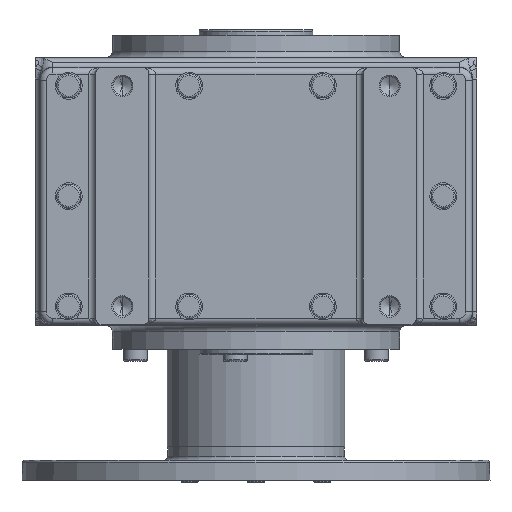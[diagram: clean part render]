
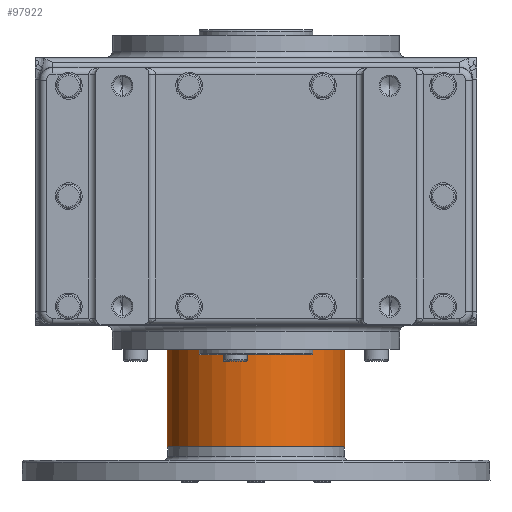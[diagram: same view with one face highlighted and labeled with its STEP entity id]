
A CAD part, front view. The second image highlights one B-rep face of the part: STEP entity #97922.
In plain terms, the highlighted cylindrical face has radius 66.5 mm (diameter 133 mm), a partial arc.
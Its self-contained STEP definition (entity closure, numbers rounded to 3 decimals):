
#65235 = DIRECTION ( 'NONE',  ( 1., 0., 0. ) ) ;
#65236 = DIRECTION ( 'NONE',  ( 0., 0., 1. ) ) ;
#65237 = CARTESIAN_POINT ( 'NONE',  ( 0., 247., -91. ) ) ;
#65238 = AXIS2_PLACEMENT_3D ( 'NONE', #65237, #65236, #65235 ) ;
#65239 = CIRCLE ( 'NONE', #65238, 66.5 ) ;
#65348 = DIRECTION ( 'NONE',  ( 1., 0., 0. ) ) ;
#65349 = DIRECTION ( 'NONE',  ( 0., 0., 1. ) ) ;
#65350 = CARTESIAN_POINT ( 'NONE',  ( 0., 247., -3. ) ) ;
#65351 = AXIS2_PLACEMENT_3D ( 'NONE', #65350, #65349, #65348 ) ;
#65352 = CYLINDRICAL_SURFACE ( 'NONE', #65351, 66.5 ) ;
#65354 = FACE_OUTER_BOUND ( 'NONE', #97923, .T. ) ;
#79535 = DIRECTION ( 'NONE',  ( 0., 0., 1. ) ) ;
#79536 = VECTOR ( 'NONE', #79535, 1000. ) ;
#80599 = CARTESIAN_POINT ( 'NONE',  ( -66.5, 247., -3. ) ) ;
#80600 = LINE ( 'NONE', #80599, #79536 ) ;
#80720 = DIRECTION ( 'NONE',  ( 0., 0., 1. ) ) ;
#80721 = VECTOR ( 'NONE', #80720, 1000. ) ;
#80722 = CARTESIAN_POINT ( 'NONE',  ( 66.5, 247., -3. ) ) ;
#80723 = LINE ( 'NONE', #80722, #80721 ) ;
#81234 = CARTESIAN_POINT ( 'NONE',  ( -66.5, 247., -91. ) ) ;
#81236 = CARTESIAN_POINT ( 'NONE',  ( 66.5, 247., -91. ) ) ;
#81379 = CARTESIAN_POINT ( 'NONE',  ( 66.5, 247., -18. ) ) ;
#81380 = CARTESIAN_POINT ( 'NONE',  ( -66.5, 247., -18. ) ) ;
#81423 = DIRECTION ( 'NONE',  ( 1., 0., 0. ) ) ;
#81424 = DIRECTION ( 'NONE',  ( 0., 0., 1. ) ) ;
#81425 = AXIS2_PLACEMENT_3D ( 'NONE', #81431, #81424, #81423 ) ;
#81426 = CIRCLE ( 'NONE', #81425, 66.5 ) ;
#81431 = CARTESIAN_POINT ( 'NONE',  ( 0., 247., -18. ) ) ;
#97864 = EDGE_CURVE ( 'NONE', #100980, #100978, #65239, .T. ) ;
#97922 = ADVANCED_FACE ( 'NONE', ( #65354 ), #65352, .T. ) ;
#97923 = EDGE_LOOP ( 'NONE', ( #97924, #97925, #97926, #97927 ) ) ;
#97924 = ORIENTED_EDGE ( 'NONE', *, *, #100703, .F. ) ;
#97925 = ORIENTED_EDGE ( 'NONE', *, *, #97864, .T. ) ;
#97926 = ORIENTED_EDGE ( 'NONE', *, *, #100744, .T. ) ;
#97927 = ORIENTED_EDGE ( 'NONE', *, *, #101058, .F. ) ;
#100703 = EDGE_CURVE ( 'NONE', #100980, #101048, #80600, .T. ) ;
#100744 = EDGE_CURVE ( 'NONE', #100978, #101049, #80723, .T. ) ;
#100978 = VERTEX_POINT ( 'NONE', #81236 ) ;
#100980 = VERTEX_POINT ( 'NONE', #81234 ) ;
#101048 = VERTEX_POINT ( 'NONE', #81380 ) ;
#101049 = VERTEX_POINT ( 'NONE', #81379 ) ;
#101058 = EDGE_CURVE ( 'NONE', #101048, #101049, #81426, .T. ) ;
